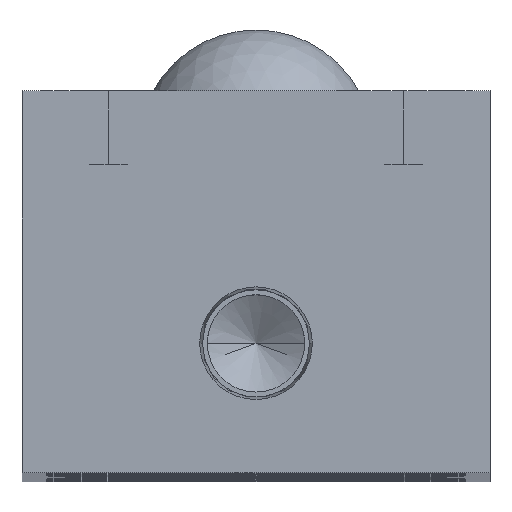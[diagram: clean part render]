
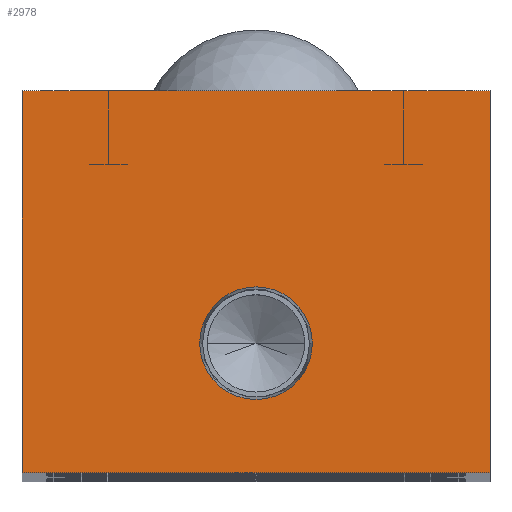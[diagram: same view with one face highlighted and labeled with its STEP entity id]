
A CAD part, top view. The second image highlights one B-rep face of the part: STEP entity #2978.
In plain terms, the highlighted planar face has unit normal (0, 0, 1).
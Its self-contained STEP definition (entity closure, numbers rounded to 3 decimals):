
#122 = EDGE_CURVE ( 'NONE', #4322, #6466, #4824, .T. ) ;
#175 = CIRCLE ( 'NONE', #5165, 4.574 ) ;
#1099 = ORIENTED_EDGE ( 'NONE', *, *, #6831, .T. ) ;
#1570 = VECTOR ( 'NONE', #3772, 1000. ) ;
#1592 = AXIS2_PLACEMENT_3D ( 'NONE', #8452, #3719, #9240 ) ;
#1611 = DIRECTION ( 'NONE',  ( 0., 0., 1. ) ) ;
#1705 = FACE_BOUND ( 'NONE', #5950, .T. ) ;
#2057 = LINE ( 'NONE', #8287, #8095 ) ;
#2480 = EDGE_CURVE ( 'NONE', #3044, #3706, #5041, .T. ) ;
#2786 = DIRECTION ( 'NONE',  ( -1., 0., 0. ) ) ;
#2812 = ORIENTED_EDGE ( 'NONE', *, *, #5410, .F. ) ;
#2978 = ADVANCED_FACE ( 'NONE', ( #1705, #10068 ), #7136, .F. ) ;
#3010 = CARTESIAN_POINT ( 'NONE',  ( 19., 31., 0. ) ) ;
#3044 = VERTEX_POINT ( 'NONE', #3440 ) ;
#3270 = LINE ( 'NONE', #3010, #5103 ) ;
#3440 = CARTESIAN_POINT ( 'NONE',  ( -19., 31., 0. ) ) ;
#3706 = VERTEX_POINT ( 'NONE', #8762 ) ;
#3719 = DIRECTION ( 'NONE',  ( 0., 0., 1. ) ) ;
#3738 = DIRECTION ( 'NONE',  ( 0., -1., 0. ) ) ;
#3772 = DIRECTION ( 'NONE',  ( 1., 0., 0. ) ) ;
#3977 = DIRECTION ( 'NONE',  ( -1., 0., 0. ) ) ;
#4121 = CARTESIAN_POINT ( 'NONE',  ( 19., 0., 0. ) ) ;
#4322 = VERTEX_POINT ( 'NONE', #6295 ) ;
#4552 = CARTESIAN_POINT ( 'NONE',  ( -4.574, 10.5, 0. ) ) ;
#4824 = CIRCLE ( 'NONE', #1592, 4.574 ) ;
#5041 = LINE ( 'NONE', #8470, #9248 ) ;
#5103 = VECTOR ( 'NONE', #10099, 1000. ) ;
#5165 = AXIS2_PLACEMENT_3D ( 'NONE', #6308, #1611, #7122 ) ;
#5410 = EDGE_CURVE ( 'NONE', #6466, #4322, #175, .T. ) ;
#5451 = ORIENTED_EDGE ( 'NONE', *, *, #122, .F. ) ;
#5645 = EDGE_LOOP ( 'NONE', ( #9448, #8009, #5885, #1099 ) ) ;
#5885 = ORIENTED_EDGE ( 'NONE', *, *, #7168, .T. ) ;
#5950 = EDGE_LOOP ( 'NONE', ( #5451, #2812 ) ) ;
#6295 = CARTESIAN_POINT ( 'NONE',  ( 4.574, 10.5, 0. ) ) ;
#6308 = CARTESIAN_POINT ( 'NONE',  ( 0., 10.5, 0. ) ) ;
#6466 = VERTEX_POINT ( 'NONE', #4552 ) ;
#6487 = AXIS2_PLACEMENT_3D ( 'NONE', #9468, #8710, #3977 ) ;
#6831 = EDGE_CURVE ( 'NONE', #8193, #3044, #2057, .T. ) ;
#6893 = EDGE_CURVE ( 'NONE', #3706, #9098, #9684, .T. ) ;
#7122 = DIRECTION ( 'NONE',  ( 1., 0., 0. ) ) ;
#7136 = PLANE ( 'NONE',  #6487 ) ;
#7168 = EDGE_CURVE ( 'NONE', #9098, #8193, #3270, .T. ) ;
#8009 = ORIENTED_EDGE ( 'NONE', *, *, #6893, .T. ) ;
#8095 = VECTOR ( 'NONE', #2786, 1000. ) ;
#8193 = VERTEX_POINT ( 'NONE', #9603 ) ;
#8287 = CARTESIAN_POINT ( 'NONE',  ( -19., 31., 0. ) ) ;
#8452 = CARTESIAN_POINT ( 'NONE',  ( 0., 10.5, 0. ) ) ;
#8470 = CARTESIAN_POINT ( 'NONE',  ( -19., 0., 0. ) ) ;
#8710 = DIRECTION ( 'NONE',  ( 0., 0., -1. ) ) ;
#8762 = CARTESIAN_POINT ( 'NONE',  ( -19., 0., 0. ) ) ;
#9098 = VERTEX_POINT ( 'NONE', #4121 ) ;
#9240 = DIRECTION ( 'NONE',  ( 1., 0., 0. ) ) ;
#9248 = VECTOR ( 'NONE', #3738, 1000. ) ;
#9289 = CARTESIAN_POINT ( 'NONE',  ( 19., 0., 0. ) ) ;
#9448 = ORIENTED_EDGE ( 'NONE', *, *, #2480, .T. ) ;
#9468 = CARTESIAN_POINT ( 'NONE',  ( 0., 0., 0. ) ) ;
#9603 = CARTESIAN_POINT ( 'NONE',  ( 19., 31., 0. ) ) ;
#9684 = LINE ( 'NONE', #9289, #1570 ) ;
#10068 = FACE_OUTER_BOUND ( 'NONE', #5645, .T. ) ;
#10099 = DIRECTION ( 'NONE',  ( 0., 1., 0. ) ) ;
